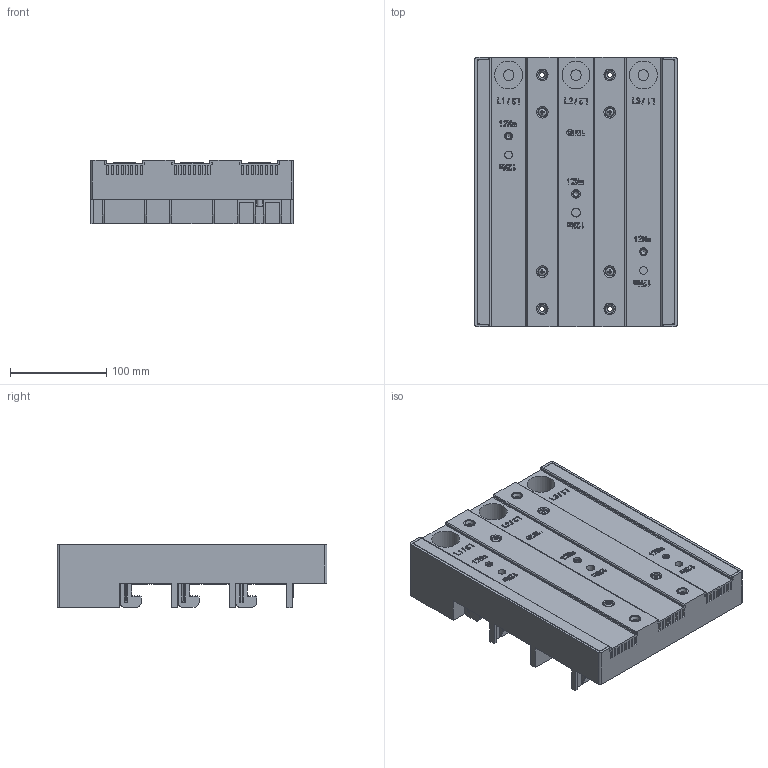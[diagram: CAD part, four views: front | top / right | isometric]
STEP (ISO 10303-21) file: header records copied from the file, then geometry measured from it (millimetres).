
FILE_DESCRIPTION (( 'STEP AP203' ), '1' );
FILE_NAME ('55003.STEP', '2021-08-30T02:55:33', ( '' ), ( '' ), 'SwSTEP 2.0', 'SolidWorks 2017', '' );
FILE_SCHEMA (( 'CONFIG_CONTROL_DESIGN' ));
Length unit declared in the file: millimetre
Products named in the file (2): 55003
Bounding box: 210 x 280 x 65.5 mm (x, y, z)
Volume: 2306358.2 mm3; surface area: 301893.7 mm2
Topology: 1 solids, 52 shells, 2966 faces, 9325 edges, 6161 vertices
Faces by surface type: plane 2277, cylinder 532, bspline 122, cone 31, sphere 4
Full cylindrical faces by diameter (mm): 3.2 x3, 3.5 x3, 5.2 x4, 7 x6, 8 x10, 8.4 x3, 9 x3, 10 x4, 11 x6, 11.8 x4, 12 x4, 14 x4, 16 x3, 19 x4, 29 x3
Entity records: 112453 total; most frequent: CARTESIAN_POINT 31121, ORIENTED_EDGE 18378, DIRECTION 15180, EDGE_CURVE 9189, LINE 6276, VECTOR 6276, VERTEX_POINT 6128, AXIS2_PLACEMENT_3D 4452
